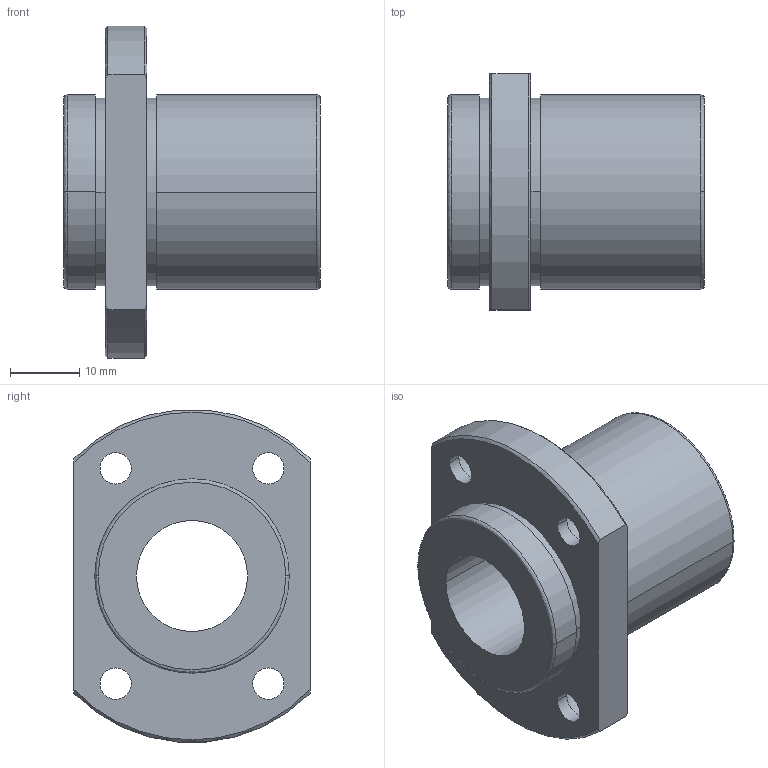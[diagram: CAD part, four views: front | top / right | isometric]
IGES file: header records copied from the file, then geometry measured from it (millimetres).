
Start section: 3D InterOp IGES (Version 21 0 1), Spatial Corp. Copyright (c) 1999-2007.
Global section: file name: NFIO-16VUU.igs; native system: Spatial Corp.; preprocessor: 3D InterOp GENERIC/IGES 3.0; author: Noname; organization: Noname; date: 20220308.102058; units: millimetre
Bounding box: 37 x 34 x 47.82 mm (x, y, z)
Surface area: 8466.5 mm2 (no closed solid volume)
Topology: 0 solids, 0 shells, 48 faces, 224 edges, 224 vertices
Faces by surface type: revolution 36, extrusion 12
